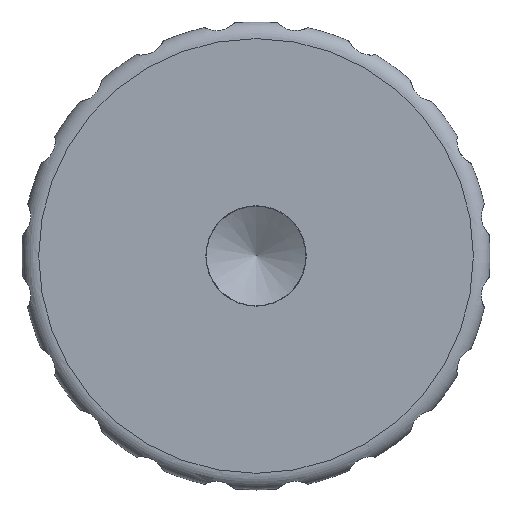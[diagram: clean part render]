
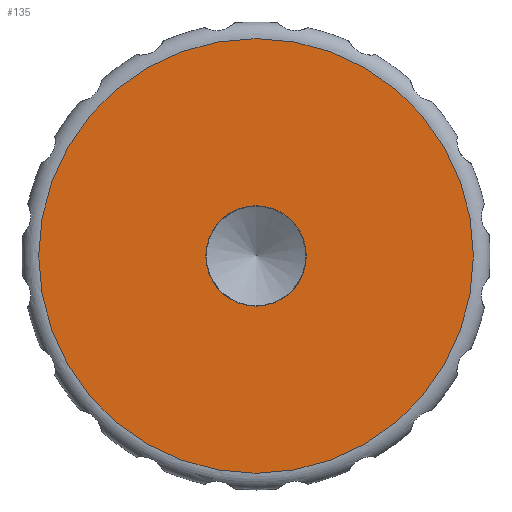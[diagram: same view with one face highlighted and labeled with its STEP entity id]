
A CAD part, left-side view. The second image highlights one B-rep face of the part: STEP entity #135.
In plain terms, the highlighted planar face has unit normal (-1, 0, 0).
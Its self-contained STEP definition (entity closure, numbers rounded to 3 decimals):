
#135 = ADVANCED_FACE( '', ( #271, #272 ), #273, .F. );
#271 = FACE_OUTER_BOUND( '', #411, .T. );
#272 = FACE_BOUND( '', #412, .T. );
#273 = PLANE( '', #413 );
#411 = EDGE_LOOP( '', ( #907 ) );
#412 = EDGE_LOOP( '', ( #908 ) );
#413 = AXIS2_PLACEMENT_3D( '', #909, #910, #911 );
#907 = ORIENTED_EDGE( '', *, *, #1077, .F. );
#908 = ORIENTED_EDGE( '', *, *, #1072, .T. );
#909 = CARTESIAN_POINT( '', ( 0., 3., 0. ) );
#910 = DIRECTION( '', ( 1., 0., 0. ) );
#911 = DIRECTION( '', ( 0., 0., -1. ) );
#1072 = EDGE_CURVE( '', #1332, #1332, #1333, .T. );
#1077 = EDGE_CURVE( '', #1340, #1340, #1341, .T. );
#1332 = VERTEX_POINT( '', #2439 );
#1333 = CIRCLE( '', #2440, 3. );
#1340 = VERTEX_POINT( '', #2447 );
#1341 = CIRCLE( '', #2448, 13. );
#2439 = CARTESIAN_POINT( '', ( 0., 0., -3. ) );
#2440 = AXIS2_PLACEMENT_3D( '', #2647, #2648, #2649 );
#2447 = CARTESIAN_POINT( '', ( 0., 0., -13. ) );
#2448 = AXIS2_PLACEMENT_3D( '', #2659, #2660, #2661 );
#2647 = CARTESIAN_POINT( '', ( 0., 0., 0. ) );
#2648 = DIRECTION( '', ( 1., 0., 0. ) );
#2649 = DIRECTION( '', ( 0., 0., -1. ) );
#2659 = CARTESIAN_POINT( '', ( 0., 0., 0. ) );
#2660 = DIRECTION( '', ( 1., 0., 0. ) );
#2661 = DIRECTION( '', ( 0., 0., -1. ) );
